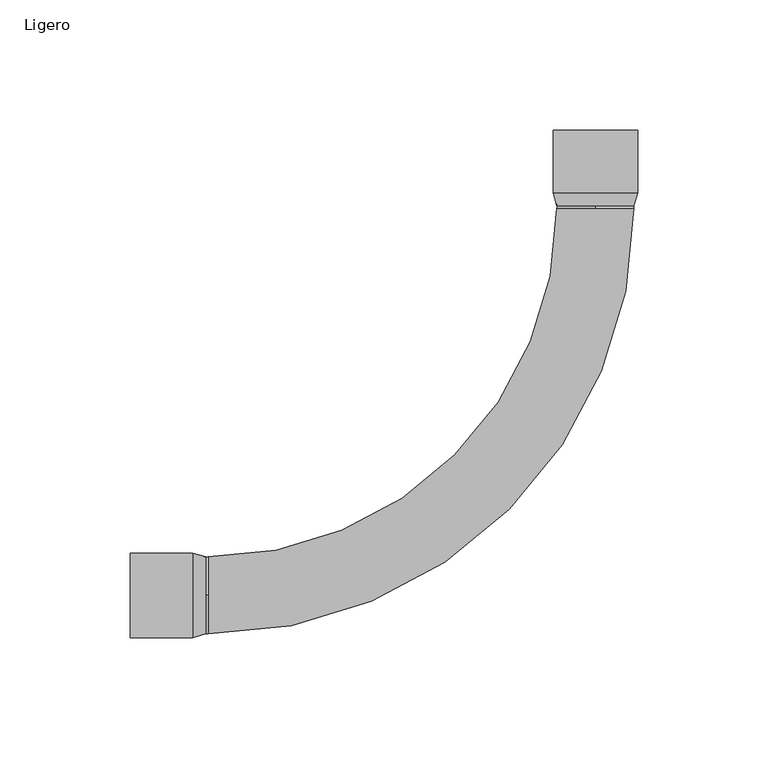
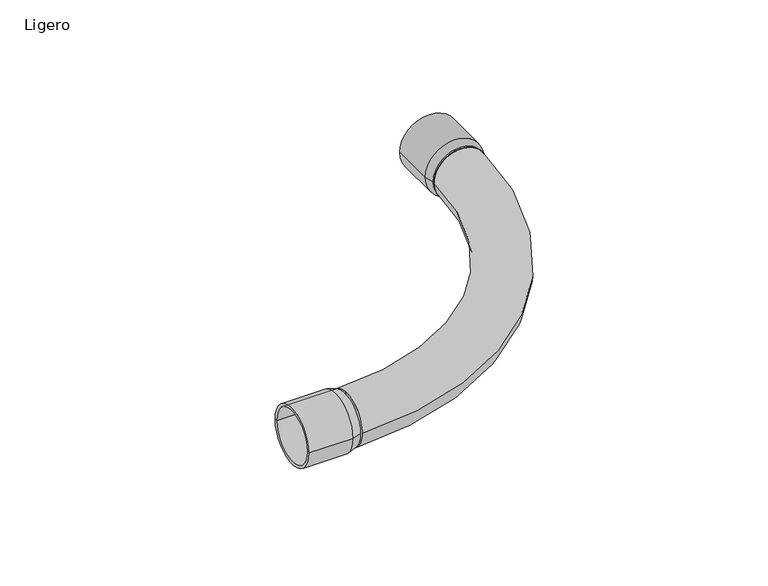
"""IFC4 building model written with IfcOpenShell, lengths in millimetres: cable carrier fitting geometry, AmancoWavin_Unionesdetubería_ConduitCurva : Ligero."""

from ifc_helpers import new_model, si_unit, point, frame, origin, origin_2d, place, context, project, spatial, polyline, circle_curve, ellipse_curve, trimmed, segment, composite_curve, outline, extrude, source, transform, mapped, element, save
from ifc_brep_helpers import plane_surface, cylinder_surface, revolved_surface, advanced_brep


def ligero_7b7c8aed(model_context):
    return source(origin(), model_context, "Body", "SolidModel", [
        advanced_brep(
        [(-16.25, 178.5, 0.0), (16.25, 178.5, 0.0), (16.25, 154.5, 0.0), (-16.25, 154.5, 0.0), (-14.75, 178.5, 0.0), (14.75, 178.5, 0.0), (-14.75, 149.5, 0.0), (14.75, 149.5, 0.0)],
        [
            (0, 1, circle_curve(frame((0.0, 178.5, 0.0), z_axis=(0.0, -1.0, 0.0), x_axis=(1.0, 0.0, 0.0)), 16.25)),
            (1, 2),
            (2, 3, circle_curve(frame((0.0, 154.5, 0.0), z_axis=(0.0, 1.0, 0.0), x_axis=(1.0, 0.0, 0.0)), 16.25)),
            (3, 0),
            (1, 0, circle_curve(frame((0.0, 178.5, 0.0), z_axis=(0.0, -1.0, 0.0), x_axis=(1.0, 0.0, 0.0)), 16.25)),
            (3, 2, circle_curve(frame((0.0, 154.5, 0.0), z_axis=(0.0, 1.0, 0.0), x_axis=(1.0, 0.0, 0.0)), 16.25)),
            (4, 5, circle_curve(frame((0.0, 178.5, 0.0), z_axis=(0.0, -1.0, 0.0), x_axis=(1.0, 0.0, 0.0)), 14.75)),
            (5, 1),
            (0, 4),
            (5, 4, circle_curve(frame((0.0, 178.5, 0.0), z_axis=(0.0, -1.0, 0.0), x_axis=(1.0, 0.0, 0.0)), 14.75)),
            (6, 7, circle_curve(frame((0.0, 149.5, 0.0), z_axis=(0.0, -1.0, 0.0), x_axis=(1.0, 0.0, 0.0)), 14.75)),
            (7, 5),
            (4, 6),
            (7, 6, circle_curve(frame((0.0, 149.5, 0.0), z_axis=(0.0, -1.0, 0.0), x_axis=(1.0, 0.0, 0.0)), 14.75)),
            (2, 7),
            (6, 3),
        ],
        [
            cylinder_surface(frame((0.0, 2047.03, 0.0), z_axis=(0.0, 1.0, 0.0), x_axis=(1.0, 0.0, 0.0)), 16.25),
            plane_surface(frame((0.0, 178.5, 0.0), z_axis=(0.0, 1.0, 0.0), x_axis=(1.0, 0.0, 0.0))),
            revolved_surface(polyline([(14.75, 178.5, 0.0), (14.75, 149.5, 0.0)]), (0.0, 2047.03, 0.0), (0.0, 1.0, 0.0)),
            revolved_surface(polyline([(14.75, 149.5, 0.0), (16.25, 154.5, 0.0)]), (0.0, 2047.03, 0.0), (0.0, 1.0, 0.0)),
        ],
        [
            (0, [[1, 2, 3, 4]]),
            (0, [[5, -4, 6, -2]]),
            (1, [[7, 8, -1, 9]]),
            (1, [[10, -9, -5, -8]]),
            (2, [[11, 12, -7, 13]]),
            (2, [[14, -13, -10, -12]]),
            (3, [[-3, 15, -11, 16]]),
            (3, [[-6, -16, -14, -15]]),
        ],
    ),
        advanced_brep(
        [(-178.5, -16.25, 0.0), (-178.5, 16.25, 0.0), (-154.5, 16.25, 0.0), (-154.5, -16.25, 0.0), (-178.5, -14.75, 0.0), (-178.5, 14.75, 0.0), (-149.5, -14.75, 0.0), (-149.5, 14.75, 0.0)],
        [
            (0, 1, circle_curve(frame((-178.5, 0.0, 0.0), z_axis=(1.0, 0.0, 0.0), x_axis=(0.0, 1.0, 0.0)), 16.25)),
            (1, 2),
            (2, 3, circle_curve(frame((-154.5, 0.0, 0.0), z_axis=(-1.0, 0.0, 0.0), x_axis=(0.0, 1.0, 0.0)), 16.25)),
            (3, 0),
            (1, 0, circle_curve(frame((-178.5, 0.0, 0.0), z_axis=(1.0, 0.0, 0.0), x_axis=(0.0, 1.0, 0.0)), 16.25)),
            (3, 2, circle_curve(frame((-154.5, 0.0, 0.0), z_axis=(-1.0, 0.0, 0.0), x_axis=(0.0, 1.0, 0.0)), 16.25)),
            (4, 5, circle_curve(frame((-178.5, 0.0, 0.0), z_axis=(1.0, 0.0, 0.0), x_axis=(0.0, 1.0, 0.0)), 14.75)),
            (5, 1),
            (0, 4),
            (5, 4, circle_curve(frame((-178.5, 0.0, 0.0), z_axis=(1.0, 0.0, 0.0), x_axis=(0.0, 1.0, 0.0)), 14.75)),
            (6, 7, circle_curve(frame((-149.5, 0.0, 0.0), z_axis=(1.0, 0.0, 0.0), x_axis=(0.0, 1.0, 0.0)), 14.75)),
            (7, 5),
            (4, 6),
            (7, 6, circle_curve(frame((-149.5, 0.0, 0.0), z_axis=(1.0, 0.0, 0.0), x_axis=(0.0, 1.0, 0.0)), 14.75)),
            (2, 7),
            (6, 3),
        ],
        [
            cylinder_surface(frame((2000.0, 0.0, 0.0), z_axis=(-1.0, 0.0, 0.0), x_axis=(0.0, 1.0, 0.0)), 16.25),
            plane_surface(frame((-178.5, 0.0, 0.0), z_axis=(-1.0, 0.0, 0.0), x_axis=(0.0, 1.0, 0.0))),
            revolved_surface(polyline([(-178.5, 14.75, 0.0), (-149.5, 14.75, 0.0)]), (2000.0, 0.0, 0.0), (-1.0, 0.0, 0.0)),
            revolved_surface(polyline([(-149.5, 14.75, 0.0), (-154.5, 16.25, 0.0)]), (2000.0, 0.0, 0.0), (-1.0, 0.0, 0.0)),
        ],
        [
            (0, [[1, 2, 3, 4]]),
            (0, [[5, -4, 6, -2]]),
            (1, [[7, 8, -1, 9]]),
            (1, [[10, -9, -5, -8]]),
            (2, [[11, 12, -7, 13]]),
            (2, [[14, -13, -10, -12]]),
            (3, [[-3, 15, -11, 16]]),
            (3, [[-6, -16, -14, -15]]),
        ],
    ),
        extrude(outline(composite_curve([segment(trimmed(circle_curve(origin_2d(), 14.75), [point((0.0, -14.75))], [point((0.0, 14.75))], False, "CARTESIAN"), True, "CONTINUOUS"), segment(trimmed(circle_curve(origin_2d(), 14.75), [point((0.0, 14.75))], [point((0.0, -14.75))], False, "CARTESIAN"), True, "CONTINUOUS")], self_intersect=False)), frame((-149.5, 0.0, 0.0), z_axis=(1.0, 0.0, 0.0), x_axis=(0.0, 1.0, 0.0)), (0.0, 0.0, 1.0), 1.0),
        extrude(outline(composite_curve([segment(trimmed(circle_curve(origin_2d(), 14.75), [point((-14.75, 0.0))], [point((14.75, 0.0))], False, "CARTESIAN"), True, "CONTINUOUS"), segment(trimmed(circle_curve(origin_2d(), 14.75), [point((14.75, 0.0))], [point((-14.75, 0.0))], False, "CARTESIAN"), True, "CONTINUOUS")], self_intersect=False)), frame((0.0, 148.5, 0.0), z_axis=(0.0, 1.0, 0.0), x_axis=(0.0, 0.0, 1.0)), (0.0, 0.0, 1.0), 1.0),
        advanced_brep(
        [(-148.5, -14.75, 0.0), (-148.5, 14.75, 0.0), (14.75, 148.5, 0.0), (-14.75, 148.5, 0.0)],
        [
            (0, 1, circle_curve(frame((-148.5, 0.0, 0.0), z_axis=(-1.0, 0.0, 0.0), x_axis=(0.0, 1.0, 0.0)), 14.75)),
            (1, 0, circle_curve(frame((-148.5, 0.0, 0.0), z_axis=(-1.0, 0.0, 0.0), x_axis=(0.0, 1.0, 0.0)), 14.75)),
            (2, 3, circle_curve(frame((0.0, 148.5, 0.0), z_axis=(0.0, 1.0, 0.0), x_axis=(-1.0, 0.0, 0.0)), 14.75)),
            (3, 2, circle_curve(frame((0.0, 148.5, 0.0), z_axis=(0.0, 1.0, 0.0), x_axis=(-1.0, 0.0, 0.0)), 14.75)),
            (3, 1, circle_curve(frame((-148.5, 148.5, 0.0), z_axis=(0.0, 0.0, -1.0), x_axis=(0.0, -1.0, 0.0)), 133.75)),
            (0, 2, circle_curve(frame((-148.5, 148.5, 0.0), z_axis=(0.0, 0.0, 1.0), x_axis=(0.0, -1.0, 0.0)), 163.25)),
        ],
        [
            plane_surface(frame((-148.5, 0.0, 0.0), z_axis=(-1.0, 0.0, 0.0), x_axis=(0.0, 0.0, 1.0))),
            plane_surface(frame((0.0, 148.5, 0.0), z_axis=(0.0, 1.0, 0.0), x_axis=(0.0, 0.0, 1.0))),
            revolved_surface(trimmed(ellipse_curve(frame((-148.5, 0.0, 0.0), z_axis=(-1.0, 0.0, 0.0), x_axis=(0.0, 1.0, 0.0)), 14.75, 14.75), [point((-148.5, -14.75, 0.0))], [point((-148.5, 14.75, 0.0))], True, "CARTESIAN"), (-148.5, 148.5, 0.0), (0.0, 0.0, 1.0)),
            revolved_surface(trimmed(ellipse_curve(frame((-148.5, 0.0, 0.0), z_axis=(-1.0, 0.0, 0.0), x_axis=(0.0, 1.0, 0.0)), 14.75, 14.75), [point((-148.5, 14.75, 0.0))], [point((-148.5, -14.75, 0.0))], True, "CARTESIAN"), (-148.5, 148.5, 0.0), (0.0, 0.0, 1.0)),
        ],
        [
            (0, [[1, 2]]),
            (1, [[3, 4]]),
            (2, [[5, -1, 6, -4]]),
            (3, [[-6, -2, -5, -3]]),
        ],
    ),
    ])


if __name__ == "__main__":
    model = new_model("IFC4")
    model_context = context("Model", 3, world=origin())
    ifc_project = project(units=[si_unit("LENGTHUNIT", "METRE", prefix="MILLI")], contexts=[model_context])
    site = spatial("IfcSite", under=ifc_project)
    building = spatial("IfcBuilding", under=site)
    placement = place(None, origin())
    ligero_shape = ligero_7b7c8aed(model_context)
    element("IfcCableCarrierFitting", 1, ObjectType="AmancoWavin_Unionesdetubería_ConduitCurva : Ligero", at=placement, inside=building, context=model_context, shape_type="MappedRepresentation", body=[
        mapped(ligero_shape, transform((0.0, 0.0, 0.0), x_axis=(1.0, 0.0, 0.0), y_axis=(0.0, 1.0, 0.0), z_axis=(0.0, 0.0, 1.0))),
    ])
    save(model, "model.ifc")
